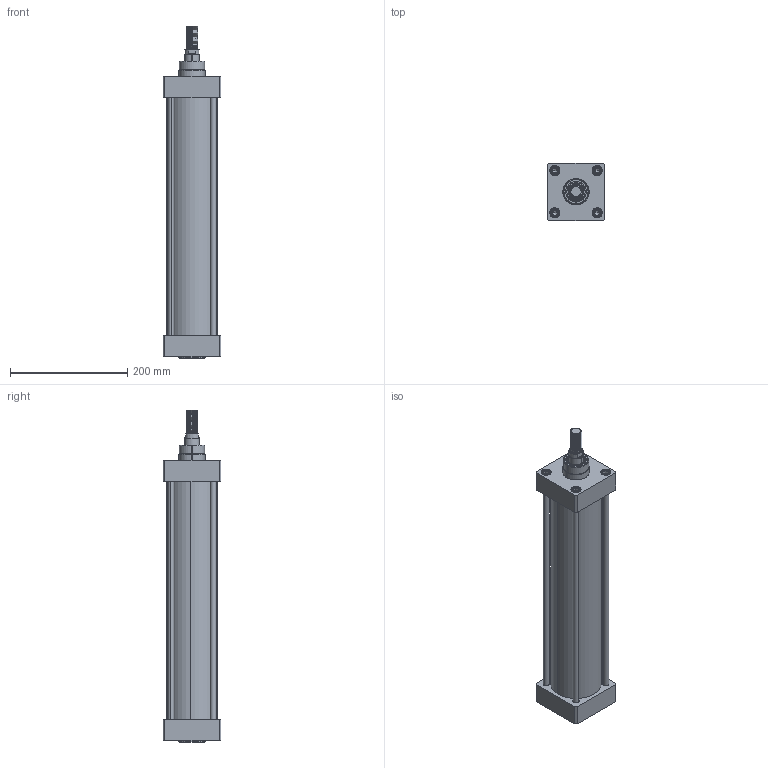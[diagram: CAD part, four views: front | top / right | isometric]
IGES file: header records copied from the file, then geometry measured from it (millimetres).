
Start section: SolidWorks IGES file using analytic representation for surfaces
Global section: file name: c:\CATALO3D\IGS\XJSS80.0350.IGS; native system: SolidWorks 2005 by SolidWorks Corporation; preprocessor: SolidWorks 2005 by SolidWorks Corporation; author: tania; date: 051201.085556; units: millimetre
Bounding box: 98 x 98 x 566 mm (x, y, z)
Surface area: 446561.6 mm2 (no closed solid volume)
Topology: 0 solids, 0 shells, 877 faces, 16008 edges, 19694 vertices
Faces by surface type: revolution 672, bspline 205
